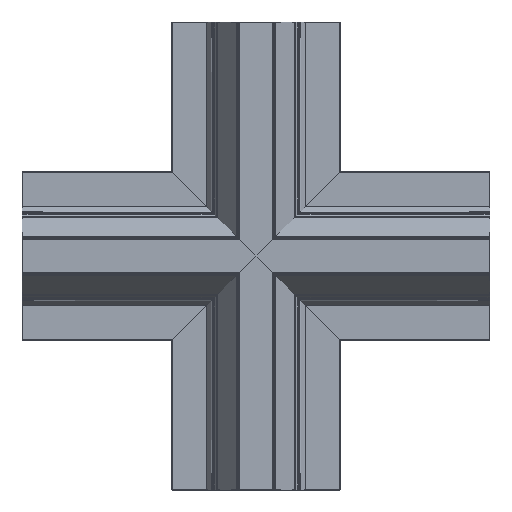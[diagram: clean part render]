
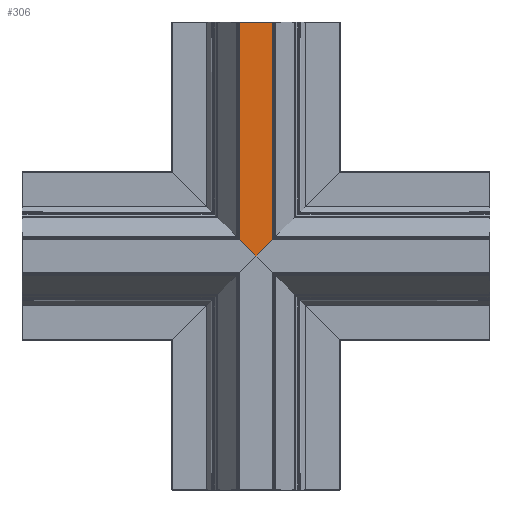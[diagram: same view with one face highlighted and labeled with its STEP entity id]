
A CAD part, top view. The second image highlights one B-rep face of the part: STEP entity #306.
In plain terms, the highlighted free-form (B-spline) face has degree [1, 1] with [2, 2] control points.
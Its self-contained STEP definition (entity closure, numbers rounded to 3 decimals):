
#306=ADVANCED_FACE('',(#598),#9713,.T.);
#598=FACE_OUTER_BOUND('',#890,.T.);
#890=EDGE_LOOP('',(#2358,#2359,#2360,#2361,#2362));
#2358=ORIENTED_EDGE('',*,*,#7115,.F.);
#2359=ORIENTED_EDGE('',*,*,#7140,.F.);
#2360=ORIENTED_EDGE('',*,*,#6693,.F.);
#2361=ORIENTED_EDGE('',*,*,#7202,.F.);
#2362=ORIENTED_EDGE('',*,*,#6884,.F.);
#2589=PCURVE('',#9561,#4061);
#2904=PCURVE('',#9595,#4376);
#3500=PCURVE('',#9671,#4972);
#3580=PCURVE('',#9680,#5052);
#3826=PCURVE('',#9712,#5298);
#3830=PCURVE('',#9713,#5302);
#3831=PCURVE('',#9713,#5303);
#3832=PCURVE('',#9713,#5304);
#3833=PCURVE('',#9713,#5305);
#3834=PCURVE('',#9713,#5306);
#4061=DEFINITIONAL_REPRESENTATION('',(#5639),#17768);
#4376=DEFINITIONAL_REPRESENTATION('',(#7738),#17768);
#4972=DEFINITIONAL_REPRESENTATION('',(#8565),#17768);
#5052=DEFINITIONAL_REPRESENTATION('',(#8670),#17768);
#5298=DEFINITIONAL_REPRESENTATION('',(#8978),#17768);
#5302=DEFINITIONAL_REPRESENTATION('',(#8982),#17768);
#5303=DEFINITIONAL_REPRESENTATION('',(#8983),#17768);
#5304=DEFINITIONAL_REPRESENTATION('',(#8984),#17768);
#5305=DEFINITIONAL_REPRESENTATION('',(#8985),#17768);
#5306=DEFINITIONAL_REPRESENTATION('',(#8986),#17768);
#5639=(
BOUNDED_CURVE()
B_SPLINE_CURVE(2,(#13021,#13022,#13023),.UNSPECIFIED.,.F.,.F.)
B_SPLINE_CURVE_WITH_KNOTS((3,3),(-294.143,-230.463),
 .UNSPECIFIED.)
CURVE()
GEOMETRIC_REPRESENTATION_ITEM()
RATIONAL_B_SPLINE_CURVE((1.,1.,1.))
REPRESENTATION_ITEM('')
);
#5957=SURFACE_CURVE('',#7323,(#2589,#3832),.PCURVE_S1.);
#6148=SURFACE_CURVE('',#7737,(#2904,#3834),.PCURVE_S1.);
#6379=SURFACE_CURVE('',#8564,(#3500,#3830),.PCURVE_S1.);
#6404=SURFACE_CURVE('',#8669,(#3580,#3831),.PCURVE_S1.);
#6466=SURFACE_CURVE('',#8977,(#3826,#3833),.PCURVE_S1.);
#6693=EDGE_CURVE('',#9013,#9012,#5957,.T.);
#6884=EDGE_CURVE('',#9073,#9109,#6148,.T.);
#7115=EDGE_CURVE('',#9344,#9073,#6379,.T.);
#7140=EDGE_CURVE('',#9012,#9344,#6404,.T.);
#7202=EDGE_CURVE('',#9109,#9013,#6466,.T.);
#7323=B_SPLINE_CURVE_WITH_KNOTS('',1,(#13019,#13020),.UNSPECIFIED.,.F.,
 .F.,(2,2),(-294.143,-230.463),.UNSPECIFIED.);
#7737=B_SPLINE_CURVE_WITH_KNOTS('',1,(#14443,#14444),.UNSPECIFIED.,.F.,
 .F.,(2,2),(-102.517,-82.909),.UNSPECIFIED.);
#7738=B_SPLINE_CURVE_WITH_KNOTS('',1,(#14445,#14446),.UNSPECIFIED.,.F.,
 .F.,(2,2),(-102.517,-82.909),.UNSPECIFIED.);
#8564=B_SPLINE_CURVE_WITH_KNOTS('',1,(#16671,#16672),.UNSPECIFIED.,.F.,
 .F.,(2,2),(82.498,101.406),.UNSPECIFIED.);
#8565=B_SPLINE_CURVE_WITH_KNOTS('',1,(#16673,#16674),.UNSPECIFIED.,.F.,
 .F.,(2,2),(82.498,101.406),.UNSPECIFIED.);
#8669=B_SPLINE_CURVE_WITH_KNOTS('',1,(#16979,#16980),.UNSPECIFIED.,.F.,
 .F.,(2,2),(-1505.8,-1256.64),.UNSPECIFIED.);
#8670=B_SPLINE_CURVE_WITH_KNOTS('',1,(#16981,#16982),.UNSPECIFIED.,.F.,
 .F.,(2,2),(-1505.8,-1256.64),.UNSPECIFIED.);
#8977=B_SPLINE_CURVE_WITH_KNOTS('',1,(#17745,#17746),.UNSPECIFIED.,.F.,
 .F.,(2,2),(1256.64,1505.8),.UNSPECIFIED.);
#8978=B_SPLINE_CURVE_WITH_KNOTS('',1,(#17747,#17748),.UNSPECIFIED.,.F.,
 .F.,(2,2),(1256.64,1505.8),.UNSPECIFIED.);
#8982=B_SPLINE_CURVE_WITH_KNOTS('',1,(#17757,#17758),.UNSPECIFIED.,.F.,
 .F.,(2,2),(82.498,101.406),.UNSPECIFIED.);
#8983=B_SPLINE_CURVE_WITH_KNOTS('',1,(#17759,#17760),.UNSPECIFIED.,.F.,
 .F.,(2,2),(-1505.8,-1256.64),.UNSPECIFIED.);
#8984=B_SPLINE_CURVE_WITH_KNOTS('',1,(#17761,#17762),.UNSPECIFIED.,.F.,
 .F.,(2,2),(-294.143,-230.463),.UNSPECIFIED.);
#8985=B_SPLINE_CURVE_WITH_KNOTS('',1,(#17763,#17764),.UNSPECIFIED.,.F.,
 .F.,(2,2),(1256.64,1505.8),.UNSPECIFIED.);
#8986=B_SPLINE_CURVE_WITH_KNOTS('',1,(#17765,#17766),.UNSPECIFIED.,.F.,
 .F.,(2,2),(-102.517,-82.909),.UNSPECIFIED.);
#9012=VERTEX_POINT('',#11301);
#9013=VERTEX_POINT('',#11302);
#9073=VERTEX_POINT('',#11362);
#9109=VERTEX_POINT('',#11398);
#9344=VERTEX_POINT('',#11633);
#9561=B_SPLINE_SURFACE_WITH_KNOTS('',1,1,((#9752,#9753),(#9754,#9755)),
 .UNSPECIFIED.,.F.,.F.,.F.,(2,2),(2,2),(-57.287,148.753),
(-29.76,11.04),.UNSPECIFIED.);
#9595=B_SPLINE_SURFACE_WITH_KNOTS('',1,1,((#10092,#10093),(#10094,#10095)),
 .UNSPECIFIED.,.F.,.F.,.F.,(2,2),(2,2),(-31.84,31.84),
(132.2,707.4),.UNSPECIFIED.);
#9671=B_SPLINE_SURFACE_WITH_KNOTS('',1,1,((#10852,#10853),(#10854,#10855)),
 .UNSPECIFIED.,.F.,.F.,.F.,(2,2),(2,2),(-31.84,31.84),
(132.2,707.4),.UNSPECIFIED.);
#9680=B_SPLINE_SURFACE_WITH_KNOTS('',1,1,((#10936,#10937),(#10938,#10939)),
 .UNSPECIFIED.,.F.,.F.,.F.,(2,2),(2,2),(-14.788,14.788),
(132.2,707.4),.UNSPECIFIED.);
#9712=B_SPLINE_SURFACE_WITH_KNOTS('',1,1,((#11268,#11269),(#11270,#11271)),
 .UNSPECIFIED.,.F.,.F.,.F.,(2,2),(2,2),(-14.788,14.788),
(132.2,707.4),.UNSPECIFIED.);
#9713=B_SPLINE_SURFACE_WITH_KNOTS('',1,1,((#11272,#11273),(#11274,#11275)),
 .UNSPECIFIED.,.F.,.F.,.F.,(2,2),(2,2),(-31.84,31.84),
(132.2,707.4),.UNSPECIFIED.);
#9752=CARTESIAN_POINT('',(11262.453,-4198.886,942.9));
#9753=CARTESIAN_POINT('',(11262.453,-4198.886,902.1));
#9754=CARTESIAN_POINT('',(11468.493,-4198.886,942.9));
#9755=CARTESIAN_POINT('',(11468.493,-4198.886,902.1));
#10092=CARTESIAN_POINT('',(11365.473,-4511.726,909.923));
#10093=CARTESIAN_POINT('',(10790.273,-4511.726,909.923));
#10094=CARTESIAN_POINT('',(11365.473,-4448.046,909.923));
#10095=CARTESIAN_POINT('',(10790.273,-4448.046,909.923));
#10852=CARTESIAN_POINT('',(11365.473,-4448.046,909.923));
#10853=CARTESIAN_POINT('',(11940.673,-4448.046,909.923));
#10854=CARTESIAN_POINT('',(11365.473,-4511.726,909.923));
#10855=CARTESIAN_POINT('',(11940.673,-4511.726,909.923));
#10936=CARTESIAN_POINT('',(11397.313,-4479.886,909.923));
#10937=CARTESIAN_POINT('',(11397.313,-3904.686,909.923));
#10938=CARTESIAN_POINT('',(11388.171,-4479.886,938.05));
#10939=CARTESIAN_POINT('',(11388.171,-3904.686,938.05));
#11268=CARTESIAN_POINT('',(11342.775,-4479.886,938.05));
#11269=CARTESIAN_POINT('',(11342.775,-3904.686,938.05));
#11270=CARTESIAN_POINT('',(11333.633,-4479.886,909.923));
#11271=CARTESIAN_POINT('',(11333.633,-3904.686,909.923));
#11272=CARTESIAN_POINT('',(11333.633,-4479.886,909.923));
#11273=CARTESIAN_POINT('',(11333.633,-3904.686,909.923));
#11274=CARTESIAN_POINT('',(11397.313,-4479.886,909.923));
#11275=CARTESIAN_POINT('',(11397.313,-3904.686,909.923));
#11301=CARTESIAN_POINT('',(11397.313,-4198.886,909.923));
#11302=CARTESIAN_POINT('',(11333.633,-4198.886,909.923));
#11362=CARTESIAN_POINT('',(11365.473,-4479.886,909.923));
#11398=CARTESIAN_POINT('',(11333.633,-4448.046,909.923));
#11633=CARTESIAN_POINT('',(11397.313,-4448.046,909.923));
#13019=CARTESIAN_POINT('',(11333.633,-4198.886,909.923));
#13020=CARTESIAN_POINT('',(11397.313,-4198.886,909.923));
#13021=CARTESIAN_POINT('',(13.892,3.217));
#13022=CARTESIAN_POINT('',(45.733,3.217));
#13023=CARTESIAN_POINT('',(77.573,3.217));
#14443=CARTESIAN_POINT('',(11365.473,-4479.886,909.923));
#14444=CARTESIAN_POINT('',(11333.633,-4448.046,909.923));
#14445=CARTESIAN_POINT('',(0.,132.2));
#14446=CARTESIAN_POINT('',(31.84,164.04));
#16671=CARTESIAN_POINT('',(11397.313,-4448.046,909.923));
#16672=CARTESIAN_POINT('',(11365.473,-4479.886,909.923));
#16673=CARTESIAN_POINT('',(-31.84,164.04));
#16674=CARTESIAN_POINT('',(0.,132.2));
#16979=CARTESIAN_POINT('',(11397.313,-4198.886,909.923));
#16980=CARTESIAN_POINT('',(11397.313,-4448.046,909.923));
#16981=CARTESIAN_POINT('',(-14.788,413.2));
#16982=CARTESIAN_POINT('',(-14.788,164.04));
#17745=CARTESIAN_POINT('',(11333.633,-4448.046,909.923));
#17746=CARTESIAN_POINT('',(11333.633,-4198.886,909.923));
#17747=CARTESIAN_POINT('',(14.788,164.04));
#17748=CARTESIAN_POINT('',(14.788,413.2));
#17757=CARTESIAN_POINT('',(31.84,164.04));
#17758=CARTESIAN_POINT('',(0.,132.2));
#17759=CARTESIAN_POINT('',(31.84,413.2));
#17760=CARTESIAN_POINT('',(31.84,164.04));
#17761=CARTESIAN_POINT('',(-31.84,413.2));
#17762=CARTESIAN_POINT('',(31.84,413.2));
#17763=CARTESIAN_POINT('',(-31.84,164.04));
#17764=CARTESIAN_POINT('',(-31.84,413.2));
#17765=CARTESIAN_POINT('',(0.,132.2));
#17766=CARTESIAN_POINT('',(-31.84,164.04));
#17768=(
GEOMETRIC_REPRESENTATION_CONTEXT(2)
PARAMETRIC_REPRESENTATION_CONTEXT()
REPRESENTATION_CONTEXT('pspace','')
);
